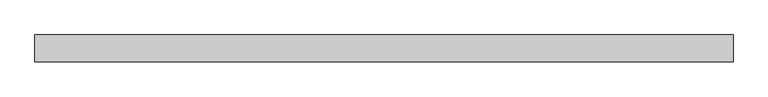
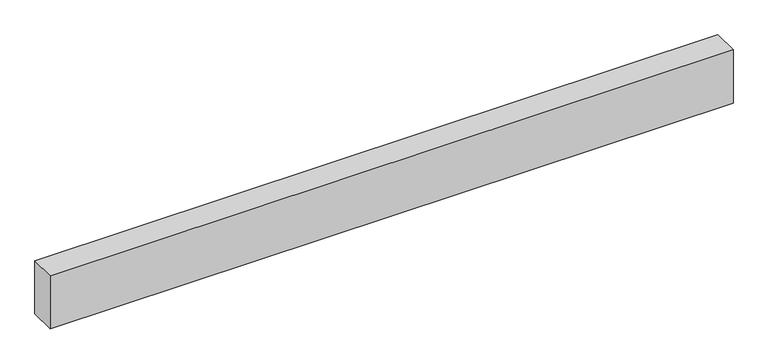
"""IFC4 building model written with IfcOpenShell, lengths in millimetres: proxy geometry."""

import ifcopenshell
import ifcopenshell.guid

model = None  # the IFC model being written
_history = None  # IfcOwnerHistory: only IFC2X3 demands one
_inside = {}  # id of a spatial element -> (the spatial element, [elements in it])
_under = {}  # id of a project, library or spatial element -> (it, [spatial elements below it])
_declared = {}  # id of a project -> (the project, [libraries it declares])
_typed = {}  # id of a type object -> (the type object, [elements of that type])
_made_of = {}  # id of a material, layer set ... -> (it, [elements and type objects made of it])


def new_model(schema):
    """Start an empty IFC model of exactly this schema.

    Asked for "IFC4X3", IfcOpenShell would pick the latest addendum, in which some entities
    have other attributes; the version numbers below select the first issue.
    IFC2X3 requires an IfcOwnerHistory on every rooted entity: one is made here for all.
    """
    global model, _history
    if schema == "IFC4X3":
        model = ifcopenshell.file(schema_version=(4, 3, 0, 0))
    else:
        model = ifcopenshell.file(schema=schema)
    _inside.clear()
    _under.clear()
    _declared.clear()
    _typed.clear()
    _made_of.clear()
    _history = None
    if model.schema == "IFC2X3":
        org = make("IfcOrganization", Name="unknown")
        user = make(
            "IfcPersonAndOrganization",
            ThePerson=make("IfcPerson", FamilyName="unknown"),
            TheOrganization=org,
        )
        app = make(
            "IfcApplication",
            ApplicationDeveloper=org,
            Version="unknown",
            ApplicationFullName="unknown",
            ApplicationIdentifier="unknown",
        )
        _history = make(
            "IfcOwnerHistory",
            OwningUser=user,
            OwningApplication=app,
            ChangeAction="ADDED",
            CreationDate=0,
        )
    return model


def make(cls, **values):
    """One entity of the class cls with the attributes given. An attribute that is None is left unset."""
    return model.create_entity(
        cls, **{name: value for name, value in values.items() if value is not None}
    )


def rooted(cls, **values):
    """An entity with a GlobalId (a new one), such as an element, a storey or a relation."""
    return make(cls, GlobalId=ifcopenshell.guid.new(), OwnerHistory=_history, **values)


def si_unit(unit_type, name, prefix=None):
    """IfcSIUnit, for example si_unit("LENGTHUNIT", "METRE", prefix="MILLI")."""
    return make("IfcSIUnit", UnitType=unit_type, Prefix=prefix, Name=name)


def assignment(units):
    """IfcUnitAssignment: the units of a project."""
    return None if units is None else make("IfcUnitAssignment", Units=units)


def point(xyz):
    """IfcCartesianPoint."""
    return None if xyz is None else make("IfcCartesianPoint", Coordinates=xyz)


def direction(xyz):
    """IfcDirection."""
    return None if xyz is None else make("IfcDirection", DirectionRatios=xyz)


def frame(location, z_axis=None, x_axis=None):
    """IfcAxis2Placement3D, a coordinate frame: its origin and axes. An axis left out is left unset."""
    return make(
        "IfcAxis2Placement3D",
        Location=point(location),
        Axis=direction(z_axis),
        RefDirection=direction(x_axis),
    )


def origin():
    """The frame at (0, 0, 0) with its axes left unset."""
    return frame((0.0, 0.0, 0.0))


def place(relative_to, where):
    """IfcLocalPlacement: puts the frame where relative to a parent placement (None: the world)."""
    return make(
        "IfcLocalPlacement", PlacementRelTo=relative_to, RelativePlacement=where
    )


def context(
    kind, dimensions, precision=None, world=None, true_north=None, identifier=None
):
    """IfcGeometricRepresentationContext, for example the 3D "Model" context."""
    return make(
        "IfcGeometricRepresentationContext",
        ContextIdentifier=identifier,
        ContextType=kind,
        CoordinateSpaceDimension=dimensions,
        Precision=precision,
        WorldCoordinateSystem=world,
        TrueNorth=true_north,
    )


def project(units=None, contexts=None):
    """IfcProject with its units and contexts."""
    return rooted(
        "IfcProject",
        Name="project",
        RepresentationContexts=contexts,
        UnitsInContext=assignment(units),
    )


def spatial(cls, under=None, at=None, **own):
    """A site, building, storey or space (cls), placed at a placement, below another one or the project."""
    s = rooted(cls, ObjectPlacement=at, **own)
    if under is not None:
        _under.setdefault(under.id(), (under, []))[1].append(s)
    return s


def polyline(points):
    """IfcPolyline through the points."""
    return make("IfcPolyline", Points=[point(p) for p in points])


def outline(outer, holes=None, kind="AREA"):
    """IfcArbitraryClosedProfileDef: a profile drawn as a closed curve; with holes, ...WithVoids."""
    if holes is None:
        return make("IfcArbitraryClosedProfileDef", ProfileType=kind, OuterCurve=outer)
    return make(
        "IfcArbitraryProfileDefWithVoids",
        ProfileType=kind,
        OuterCurve=outer,
        InnerCurves=holes,
    )


def extrude(swept, where, along, depth):
    """IfcExtrudedAreaSolid: the profile swept, set in the frame where, extruded along a direction by depth."""
    return make(
        "IfcExtrudedAreaSolid",
        SweptArea=swept,
        Position=where,
        ExtrudedDirection=direction(along),
        Depth=depth,
    )


def shape(context_of_items, identifier, shape_type, items):
    """IfcShapeRepresentation: the items that make up one representation, for example the "Body"."""
    return make(
        "IfcShapeRepresentation",
        ContextOfItems=context_of_items,
        RepresentationIdentifier=identifier,
        RepresentationType=shape_type,
        Items=items,
    )


def source(mapping_origin, context_of_items, identifier, shape_type, items):
    """IfcRepresentationMap: a shape defined once, which mapped items show again and again."""
    return make(
        "IfcRepresentationMap",
        MappingOrigin=mapping_origin,
        MappedRepresentation=shape(context_of_items, identifier, shape_type, items),
    )


def transform(
    local_origin,
    x_axis=None,
    y_axis=None,
    z_axis=None,
    scale=None,
    scale2=None,
    scale3=None,
    uniform=True,
):
    """IfcCartesianTransformationOperator3D, or its non-uniform kind. x_axis, y_axis, z_axis: its Axis1, 2, 3."""
    if uniform:
        return make(
            "IfcCartesianTransformationOperator3D",
            Axis1=direction(x_axis),
            Axis2=direction(y_axis),
            LocalOrigin=point(local_origin),
            Scale=scale,
            Axis3=direction(z_axis),
        )
    return make(
        "IfcCartesianTransformationOperator3DnonUniform",
        Axis1=direction(x_axis),
        Axis2=direction(y_axis),
        LocalOrigin=point(local_origin),
        Scale=scale,
        Axis3=direction(z_axis),
        Scale2=scale2,
        Scale3=scale3,
    )


def mapped(mapping_source, mapping_target):
    """IfcMappedItem: shows the shape of a source again, moved by a transform."""
    return make(
        "IfcMappedItem", MappingSource=mapping_source, MappingTarget=mapping_target
    )


def made_of(thing, what):
    """Note that an element or type object is made of a material, layer set ...; save() writes the relation."""
    if what is not None:
        _made_of.setdefault(what.id(), (what, []))[1].append(thing)
    return thing


def element(
    cls,
    number,
    at=None,
    inside=None,
    cuts=None,
    type_object=None,
    material=None,
    context=None,
    identifier="Body",
    shape_type=None,
    held_by="IfcProductDefinitionShape",
    body=None,
    shapes=None,
    **own,
):
    """One element of the class cls, such as IfcWall. Its Tag is "e" and its number.

    at: its placement. inside: the storey or other place that contains it. cuts: it is an
    opening in that element (IfcRelVoidsElement). A single representation is given by context,
    identifier, shape_type and body (its items); several are given by shapes. held_by: the class
    of the entity that holds the representations. save() writes the other relations.
    """
    e = rooted(cls, Tag="e%d" % number, ObjectPlacement=at, **own)
    if body is not None:
        shapes = [shape(context, identifier, shape_type, body)]
    if shapes is not None:
        e.Representation = make(held_by, Representations=shapes)
    if inside is not None:
        _inside.setdefault(inside.id(), (inside, []))[1].append(e)
    if cuts is not None:
        rooted(
            "IfcRelVoidsElement", RelatingBuildingElement=cuts, RelatedOpeningElement=e
        )
    if type_object is not None:
        _typed.setdefault(type_object.id(), (type_object, []))[1].append(e)
    return made_of(e, material)


def aggregate(whole, parts):
    """IfcRelAggregates: a whole, such as a stair, and the parts it consists of."""
    return rooted("IfcRelAggregates", RelatingObject=whole, RelatedObjects=parts)


def save(model, path):
    """Write the relations noted so far, then the file.

    IfcRelAggregates (storeys below a building ...), IfcRelContainedInSpatialStructure (elements
    in a storey), IfcRelDefinesByType, IfcRelAssociatesMaterial and IfcRelDeclares: one each for
    every whole, place, type object, material and project.
    """
    for whole, parts in _under.values():
        aggregate(whole, parts)
    for where, things in _inside.values():
        rooted(
            "IfcRelContainedInSpatialStructure",
            RelatedElements=things,
            RelatingStructure=where,
        )
    for kind, things in _typed.values():
        rooted("IfcRelDefinesByType", RelatedObjects=things, RelatingType=kind)
    for what, things in _made_of.values():
        rooted("IfcRelAssociatesMaterial", RelatedObjects=things, RelatingMaterial=what)
    for by, libraries in _declared.values():
        rooted("IfcRelDeclares", RelatingContext=by, RelatedDefinitions=libraries)
    model.write(path)


def structural_framing_cfa52355(model_context):
    return source(origin(), model_context, "Body", "SweptSolid", [
        extrude(outline(polyline([(-1824.2, -70.0), (-1824.2, 70.0), (1824.2, 70.0), (1824.2, -70.0), (-1824.2, -70.0)])), frame((0.0, 0.0, -300.0), z_axis=(0.0, 0.0, 1.0), x_axis=(1.0, 0.0, 0.0)), (0.0, 0.0, 1.0), 300.0),
    ])


if __name__ == "__main__":
    model = new_model("IFC4")
    model_context = context("Model", 3, world=origin())
    ifc_project = project(units=[si_unit("LENGTHUNIT", "METRE", prefix="MILLI")], contexts=[model_context])
    site = spatial("IfcSite", under=ifc_project)
    building = spatial("IfcBuilding", under=site)
    placement = place(None, origin())
    structural_framing_shape = structural_framing_cfa52355(model_context)
    element("IfcBuildingElementProxy", 1, Name="Structural Framing", at=placement, inside=building, context=model_context, shape_type="MappedRepresentation", body=[
        mapped(structural_framing_shape, transform((0.0, 0.0, 0.0), x_axis=(1.0, 0.0, 0.0), y_axis=(0.0, 1.0, 0.0), z_axis=(0.0, 0.0, 1.0))),
    ])
    save(model, "model.ifc")
